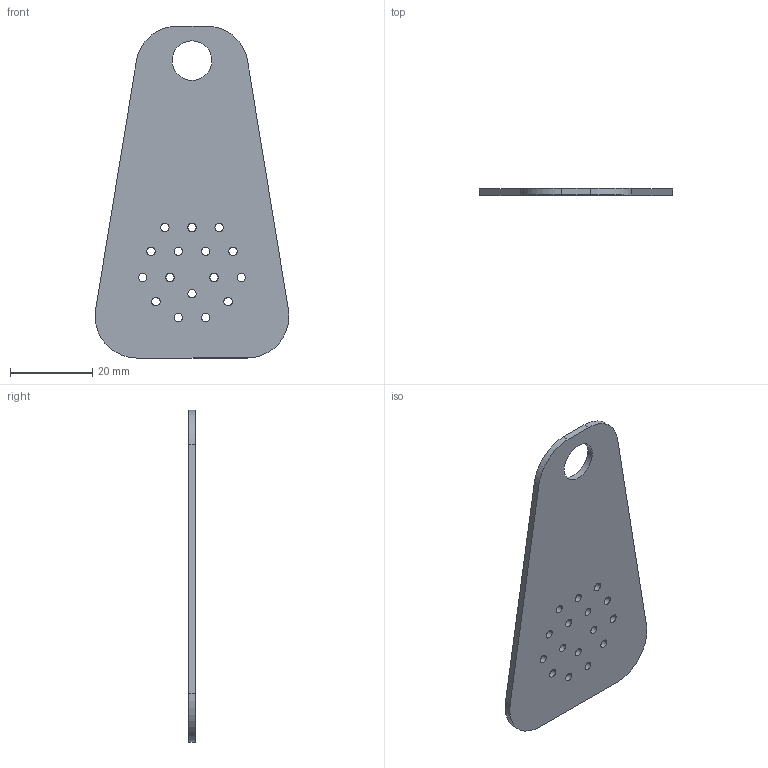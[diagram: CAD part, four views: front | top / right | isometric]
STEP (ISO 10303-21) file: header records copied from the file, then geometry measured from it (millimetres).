
FILE_DESCRIPTION (( 'STEP AP214' ), '1' );
FILE_NAME ('APDR-L3H17-BR.STEP', '2020-01-29T20:01:20', ( '' ), ( '' ), 'SwSTEP 2.0', 'SolidWorks 2014', '' );
FILE_SCHEMA (( 'AUTOMOTIVE_DESIGN' ));
Length unit declared in the file: inch
Products named in the file (2): APDR-L3H17-BR
Bounding box: 47.19 x 1.59 x 80.8 mm (x, y, z)
Volume: 4466.8 mm3; surface area: 6187.5 mm2
Topology: 1 solids, 1 shells, 45 faces, 129 edges, 86 vertices
Faces by surface type: cylinder 39, plane 6
Entity records: 2229 total; most frequent: DIRECTION 301, CARTESIAN_POINT 262, ORIENTED_EDGE 258, EDGE_CURVE 129, AXIS2_PLACEMENT_3D 125, VERTEX_POINT 86, EDGE_LOOP 79, CIRCLE 78
